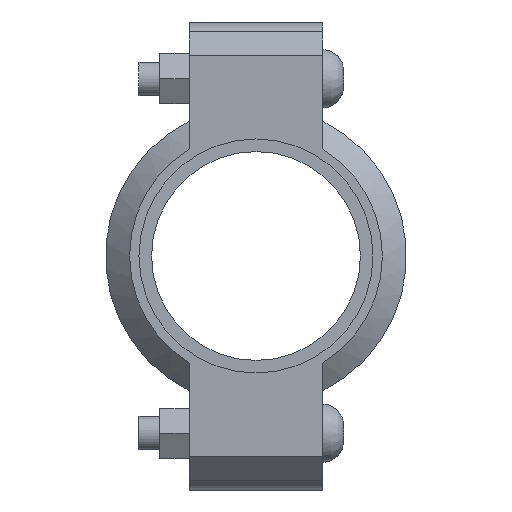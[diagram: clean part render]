
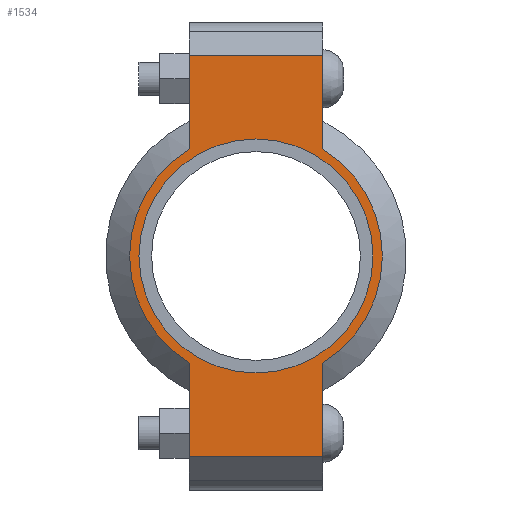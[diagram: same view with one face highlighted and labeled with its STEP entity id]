
A CAD part, left-side view. The second image highlights one B-rep face of the part: STEP entity #1534.
In plain terms, the highlighted planar face has unit normal (-1, 0, 0) as drawn and (0, 0, 1) by its records, which use the part's own axes.
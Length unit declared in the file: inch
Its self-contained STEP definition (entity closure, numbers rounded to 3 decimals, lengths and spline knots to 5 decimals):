
#158=LINE('',#2677,#251);
#166=LINE('',#2713,#259);
#173=LINE('',#2734,#266);
#182=LINE('',#2766,#275);
#183=LINE('',#2770,#276);
#184=LINE('',#2772,#277);
#251=VECTOR('',#2185,0.3937);
#259=VECTOR('',#2201,0.3937);
#266=VECTOR('',#2220,0.3937);
#275=VECTOR('',#2245,0.3937);
#276=VECTOR('',#2250,0.3937);
#277=VECTOR('',#2251,0.3937);
#333=FACE_BOUND('',#511,.T.);
#405=FACE_OUTER_BOUND('',#510,.T.);
#510=EDGE_LOOP('',(#1275,#1276,#1277,#1278,#1279,#1280,#1281,#1282));
#511=EDGE_LOOP('',(#1283));
#583=CIRCLE('',#1753,1.75);
#609=CIRCLE('',#1812,1.89);
#610=CIRCLE('',#1813,1.89);
#675=VERTEX_POINT('',#2493);
#718=VERTEX_POINT('',#2674);
#719=VERTEX_POINT('',#2676);
#730=VERTEX_POINT('',#2708);
#731=VERTEX_POINT('',#2712);
#738=VERTEX_POINT('',#2731);
#739=VERTEX_POINT('',#2733);
#749=VERTEX_POINT('',#2769);
#750=VERTEX_POINT('',#2771);
#831=EDGE_CURVE('',#675,#675,#583,.T.);
#892=EDGE_CURVE('',#719,#718,#158,.T.);
#906=EDGE_CURVE('',#731,#730,#166,.T.);
#916=EDGE_CURVE('',#739,#738,#173,.T.);
#931=EDGE_CURVE('',#731,#718,#182,.T.);
#932=EDGE_CURVE('',#730,#739,#609,.T.);
#933=EDGE_CURVE('',#749,#738,#183,.T.);
#934=EDGE_CURVE('',#749,#750,#184,.T.);
#935=EDGE_CURVE('',#750,#719,#610,.T.);
#1275=ORIENTED_EDGE('',*,*,#931,.F.);
#1276=ORIENTED_EDGE('',*,*,#906,.T.);
#1277=ORIENTED_EDGE('',*,*,#932,.T.);
#1278=ORIENTED_EDGE('',*,*,#916,.T.);
#1279=ORIENTED_EDGE('',*,*,#933,.F.);
#1280=ORIENTED_EDGE('',*,*,#934,.T.);
#1281=ORIENTED_EDGE('',*,*,#935,.T.);
#1282=ORIENTED_EDGE('',*,*,#892,.T.);
#1283=ORIENTED_EDGE('',*,*,#831,.T.);
#1376=PLANE('',#1811);
#1534=ADVANCED_FACE('',(#405,#333),#1376,.T.);
#1753=AXIS2_PLACEMENT_3D('',#2495,#2061,#2062);
#1811=AXIS2_PLACEMENT_3D('',#2767,#2246,#2247);
#1812=AXIS2_PLACEMENT_3D('',#2768,#2248,#2249);
#1813=AXIS2_PLACEMENT_3D('',#2773,#2252,#2253);
#2061=DIRECTION('center_axis',(0.,0.,-1.));
#2062=DIRECTION('ref_axis',(-1.,0.,0.));
#2185=DIRECTION('',(-1.,0.,0.));
#2201=DIRECTION('',(1.,0.,0.));
#2220=DIRECTION('',(1.,0.,0.));
#2245=DIRECTION('',(0.,1.,0.));
#2246=DIRECTION('center_axis',(0.,0.,1.));
#2247=DIRECTION('ref_axis',(1.,0.,0.));
#2248=DIRECTION('center_axis',(0.,0.,1.));
#2249=DIRECTION('ref_axis',(-1.,0.,0.));
#2250=DIRECTION('',(0.,-1.,0.));
#2251=DIRECTION('',(-1.,0.,0.));
#2252=DIRECTION('center_axis',(0.,0.,1.));
#2253=DIRECTION('ref_axis',(-1.,0.,0.));
#2493=CARTESIAN_POINT('',(1.75,0.,0.94));
#2495=CARTESIAN_POINT('Origin',(0.,0.,0.94));
#2674=CARTESIAN_POINT('',(-3.,1.,0.94));
#2676=CARTESIAN_POINT('',(-1.60378,1.,0.94));
#2677=CARTESIAN_POINT('',(-3.5,1.,0.94));
#2708=CARTESIAN_POINT('',(-1.60378,-1.,0.94));
#2712=CARTESIAN_POINT('',(-3.,-1.,0.94));
#2713=CARTESIAN_POINT('',(3.5,-1.,0.94));
#2731=CARTESIAN_POINT('',(3.,-1.,0.94));
#2733=CARTESIAN_POINT('',(1.60378,-1.,0.94));
#2734=CARTESIAN_POINT('',(3.5,-1.,0.94));
#2766=CARTESIAN_POINT('',(-3.,0.5,0.94));
#2767=CARTESIAN_POINT('Origin',(0.,0.,
0.94));
#2768=CARTESIAN_POINT('Origin',(0.,0.,0.94));
#2769=CARTESIAN_POINT('',(3.,1.,0.94));
#2770=CARTESIAN_POINT('',(3.,-0.5,0.94));
#2771=CARTESIAN_POINT('',(1.60378,1.,0.94));
#2772=CARTESIAN_POINT('',(-3.5,1.,0.94));
#2773=CARTESIAN_POINT('Origin',(0.,0.,0.94));
